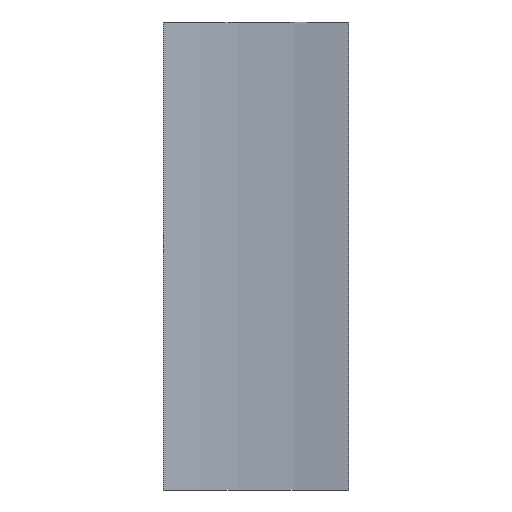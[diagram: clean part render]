
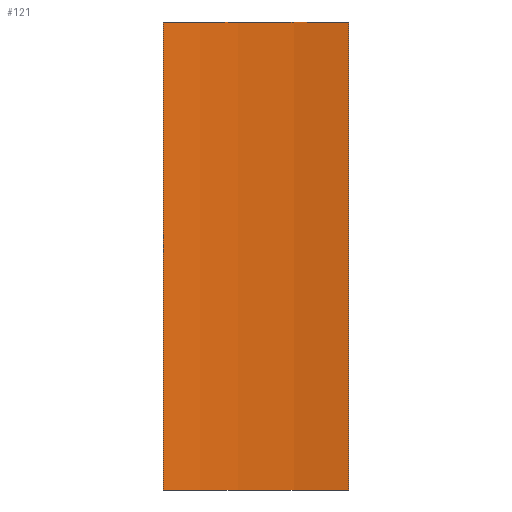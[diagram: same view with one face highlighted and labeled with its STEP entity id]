
A CAD part, left-side view. The second image highlights one B-rep face of the part: STEP entity #121.
In plain terms, the highlighted free-form (B-spline) face has degree [2, 1] with [9, 2] control points.
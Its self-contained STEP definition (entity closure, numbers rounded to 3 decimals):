
#1=CARTESIAN_POINT('',(9.802,-1.987,0.));
#2=CARTESIAN_POINT('',(9.802,1.987,0.));
#3=CARTESIAN_POINT('',(9.802,-1.987,10.));
#4=CARTESIAN_POINT('',(9.802,1.987,10.));
#5=CARTESIAN_POINT('',(10.204,0.,0.));
#6=CARTESIAN_POINT('',(10.204,0.,10.));
#10=VERTEX_POINT('',#1);
#11=VERTEX_POINT('',#2);
#12=VERTEX_POINT('',#3);
#13=VERTEX_POINT('',#4);
#20=(BOUNDED_CURVE() B_SPLINE_CURVE(2,(#1,#5,#2),.UNSPECIFIED.,.F.,.F.) B_SPLINE_CURVE_WITH_KNOTS((3,3),(0.,1.),.UNSPECIFIED.) CURVE() GEOMETRIC_REPRESENTATION_ITEM() RATIONAL_B_SPLINE_CURVE((1.,0.98,1.)) REPRESENTATION_ITEM('bottom offset arc'));
#21=(BOUNDED_CURVE() B_SPLINE_CURVE(2,(#3,#6,#4),.UNSPECIFIED.,.F.,.F.) B_SPLINE_CURVE_WITH_KNOTS((3,3),(0.,1.),.UNSPECIFIED.) CURVE() GEOMETRIC_REPRESENTATION_ITEM() RATIONAL_B_SPLINE_CURVE((1.,0.98,1.)) REPRESENTATION_ITEM('top offset arc'));
#22=DIRECTION('',(0.,0.,1.));
#23=VECTOR('',#22,10.);
#24=LINE('',#2,#23);
#25=LINE('',#1,#23);
#30=EDGE_CURVE('',#10,#11,#20,.T.);
#31=EDGE_CURVE('',#11,#13,#24,.T.);
#32=EDGE_CURVE('',#12,#13,#21,.T.);
#33=EDGE_CURVE('',#10,#12,#25,.T.);
#40=ORIENTED_EDGE('',*,*,#30,.T.);
#41=ORIENTED_EDGE('',*,*,#31,.T.);
#42=ORIENTED_EDGE('',*,*,#32,.F.);
#43=ORIENTED_EDGE('',*,*,#33,.F.);
#44=EDGE_LOOP('',(#40,#41,#42,#43));
#45=FACE_OUTER_BOUND('',#44,.T.);
#100=CARTESIAN_POINT('',(10.,0.,0.));
#101=CARTESIAN_POINT('',(10.,0.,10.));
#102=CARTESIAN_POINT('',(10.,10.,0.));
#103=CARTESIAN_POINT('',(10.,10.,10.));
#104=CARTESIAN_POINT('',(0.,10.,0.));
#105=CARTESIAN_POINT('',(0.,10.,10.));
#106=CARTESIAN_POINT('',(-10.,10.,0.));
#107=CARTESIAN_POINT('',(-10.,10.,10.));
#108=CARTESIAN_POINT('',(-10.,0.,0.));
#109=CARTESIAN_POINT('',(-10.,0.,10.));
#110=CARTESIAN_POINT('',(-10.,-10.,0.));
#111=CARTESIAN_POINT('',(-10.,-10.,10.));
#112=CARTESIAN_POINT('',(0.,-10.,0.));
#113=CARTESIAN_POINT('',(0.,-10.,10.));
#114=CARTESIAN_POINT('',(10.,-10.,0.));
#115=CARTESIAN_POINT('',(10.,-10.,10.));
#116=CARTESIAN_POINT('',(10.,0.,0.));
#117=CARTESIAN_POINT('',(10.,0.,10.));
#120=(BOUNDED_SURFACE() B_SPLINE_SURFACE(2,1,((#100,#101),(#102,#103),(#104,#105),(#106,#107),(#108,#109),(#110,#111),(#112,#113),(#114,#115),(#116,#117)),.UNSPECIFIED.,.T.,.F.,.F.) B_SPLINE_SURFACE_WITH_KNOTS((3,2,2,2,3),(2,2),(0.,0.25,0.5,0.75,1.),(0.,1.),.UNSPECIFIED.) GEOMETRIC_REPRESENTATION_ITEM() RATIONAL_B_SPLINE_SURFACE(((1.,1.),(0.707,0.707),(1.,1.),(0.707,0.707),(1.,1.),(0.707,0.707),(1.,1.),(0.707,0.707),(1.,1.))) REPRESENTATION_ITEM('closed rational cylinder') SURFACE());
#121=ADVANCED_FACE('',(#45),#120,.T.);
